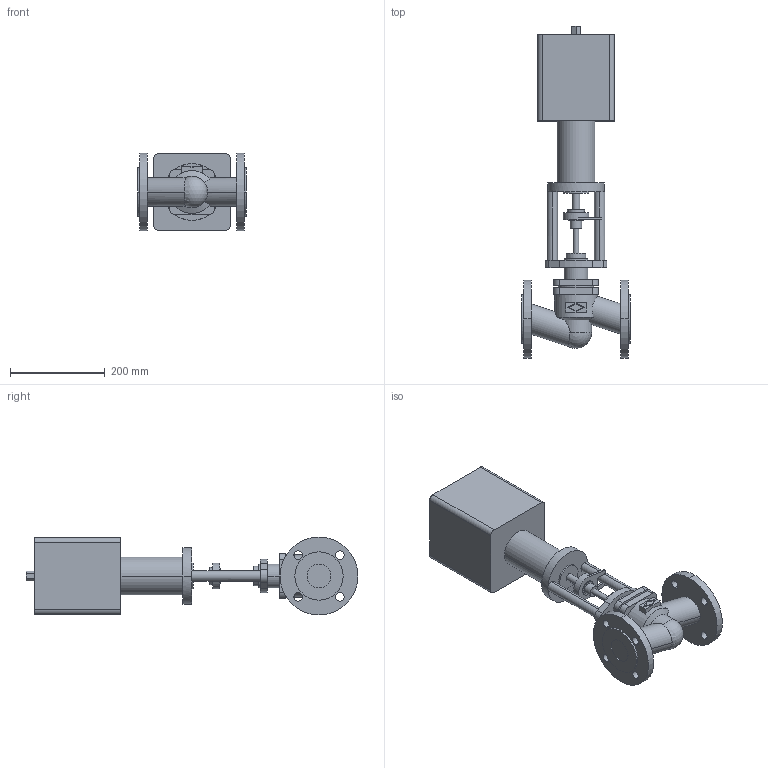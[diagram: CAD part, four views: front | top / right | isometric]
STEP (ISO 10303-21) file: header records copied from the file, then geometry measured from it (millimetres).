
FILE_DESCRIPTION( ( '' ), '1' );
FILE_NAME( 'F:/DE-SHS/TB/OR/04-Sonstiges/daten/files_3d/440-FR2.2/440-PN25-FR2_2/c000004524.stp', '2014-11-06T10:21:04', ( '' ), ( '' ), ' ', ' ', ' ' );
FILE_SCHEMA( ( 'CONFIG_CONTROL_DESIGN' ) );
Length unit declared in the file: millimetre
Products named in the file (2): 1; 2
Bounding box: 230 x 702.5 x 165 mm (x, y, z)
Volume: 7896907.6 mm3; surface area: 460169 mm2
Topology: 2 solids, 2 shells, 162 faces, 395 edges, 261 vertices
Faces by surface type: cylinder 82, plane 77, cone 2, sphere 1
Entity records: 5389 total; most frequent: CARTESIAN_POINT 1306, DIRECTION 883, ORIENTED_EDGE 786, EDGE_CURVE 393, AXIS2_PLACEMENT_3D 340, VERTEX_POINT 261, EDGE_LOOP 204, LINE 203
